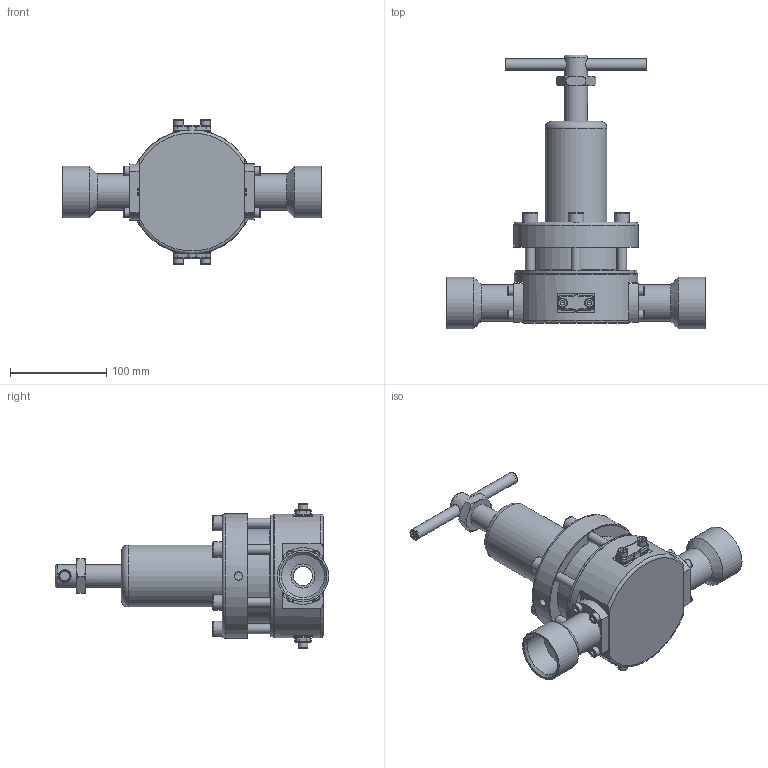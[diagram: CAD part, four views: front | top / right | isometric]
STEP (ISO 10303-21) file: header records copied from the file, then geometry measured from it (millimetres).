
FILE_DESCRIPTION(/* description */ ('Valvola di sfioro 3VSS2'),/* implementation_level */ '2;1');
FILE_NAME(/* name */ '3VSS2#S0FR99A000.stp',/* time_stamp */ '2024-03-18T16:18:24+01:00',/* author */ ('FrancescoLazio'),/* organization */ (''),/* preprocessor_version */ 'ST-DEVELOPER v19.2',/* originating_system */ 'Autodesk Inventor 2024',/* authorisation */ '');
FILE_SCHEMA (('AUTOMOTIVE_DESIGN { 1 0 10303 214 3 1 1 }'));
Length unit declared in the file: millimetre
Products named in the file (14): C85024; P20702; P37131; 0DC10410; P37098; 0DC10620; P31004; C43013; P43064; 0DE07B; P30012; 0DN111; P26108; P37125
Assembly tree (31 placements, depth 3):
  C85024
    P20702
    0DC10410  x12
    P37131  x2
    P37098
    0DC10620  x6
    P31004
    C43013
      P43064
      0DE07B
      P30012
      0DN111
    P26108
    P37125  x2
Bounding box: 269 x 285 x 150.6 mm (x, y, z)
Volume: 750897.7 mm3; surface area: 268093.9 mm2
Topology: 30 solids, 30 shells, 617 faces, 1480 edges, 952 vertices
Faces by surface type: plane 242, cylinder 157, cone 101, torus 66, bspline 50, sphere 1
Full cylindrical faces by diameter (mm): 4.917 x12, 5 x2, 6 x12, 6.5 x12, 7.7 x2, 8.376 x6, 8.566 x1, 10 x20, 10.5 x6, 11.2 x2, 12 x1, 12.2 x1, 16 x6, 20 x2, 21.835 x1, 22 x1, 24 x1, 25 x2, 34.6 x2, 38 x2, 38.5 x2, 44.845 x2, 54 x2, 60 x1, 62.376 x1, 64 x1, 64.5 x2, 98 x3, 99 x1, 126.5 x1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
Entity records: 11115 total; most frequent: CARTESIAN_POINT 3770, DIRECTION 1489, ORIENTED_EDGE 1336, EDGE_CURVE 668, AXIS2_PLACEMENT_3D 637, VERTEX_POINT 434, EDGE_LOOP 364, CIRCLE 318
